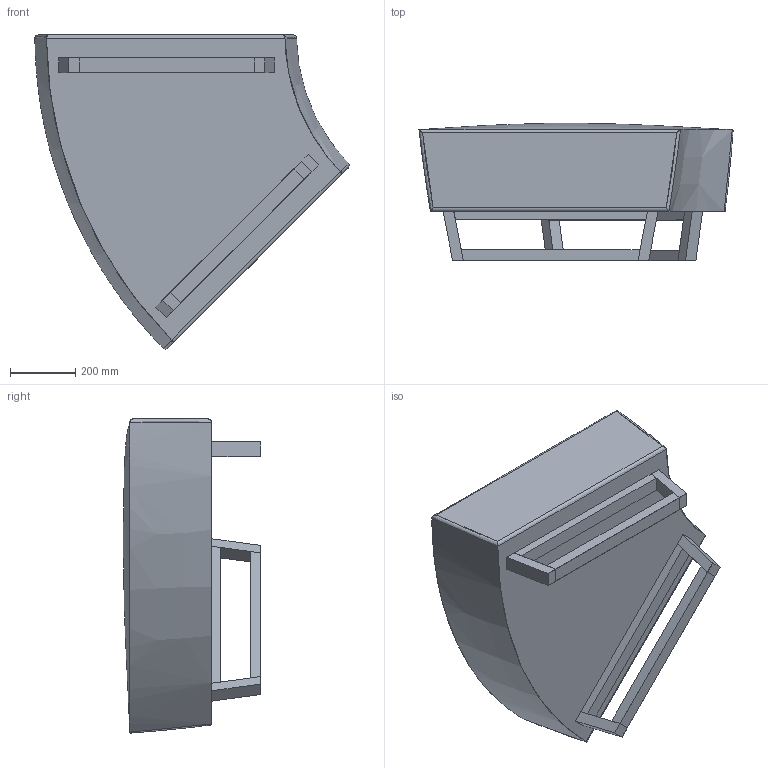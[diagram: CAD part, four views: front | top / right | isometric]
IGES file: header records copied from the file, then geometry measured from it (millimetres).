
Start section: SolidWorks IGES file using analytic representation for surfaces
Global section: file name: P:\3D CAD BLOCKS\us\45 DEGREE SEAT WITHOUT BACK\us - 45 DEGREE SEAT WITHOUT BACK.IGS; native system: SolidWorks 2012; preprocessor: SolidWorks 2012; author: adam; date: 140226.121831; units: millimetre
Bounding box: 961.16 x 420.01 x 960.82 mm (x, y, z)
Surface area: 2847863.4 mm2 (no closed solid volume)
Topology: 0 solids, 0 shells, 128 faces, 1082 edges, 1082 vertices
Faces by surface type: bspline 108, revolution 20
